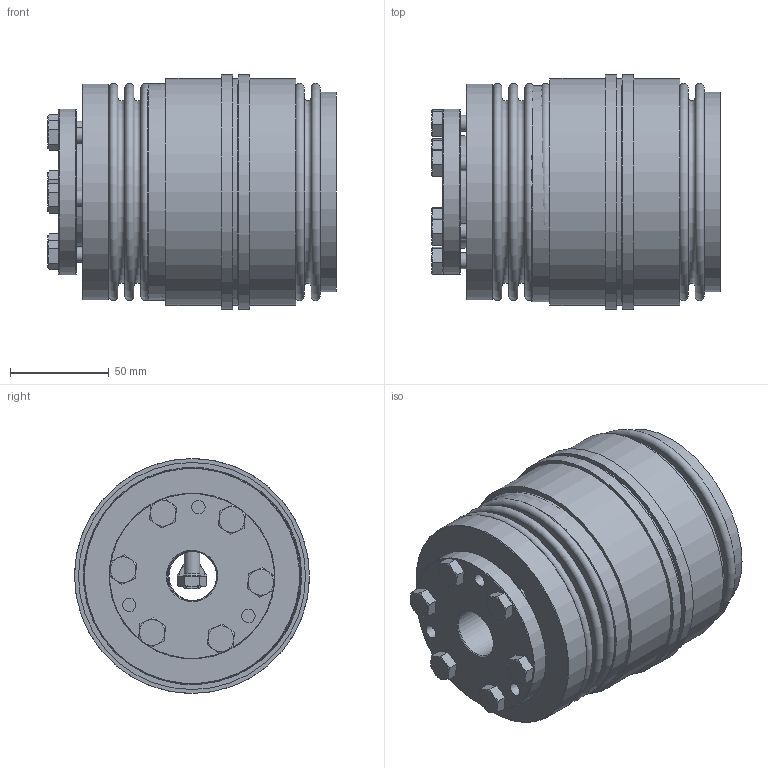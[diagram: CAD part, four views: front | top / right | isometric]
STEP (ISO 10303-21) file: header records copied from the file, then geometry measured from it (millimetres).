
FILE_DESCRIPTION( ( 'Unknown' ), '1' );
FILE_NAME( 'C:/Dokumente und Einstellungen/SKarpstein/Desktop/Korrigierte 3D Modelle/KBK-B-II/KBK-BII-300-135.stp', 'Unknown', ( 'Unknown' ), ( 'Unknown' ), 'XStep 1.0', 'Unknown', ' ' );
FILE_SCHEMA( ( 'automotive_design' ) );
Length unit declared in the file: millimetre
Products named in the file (12): Assem1; Assem2; Hex Screw GradeC_ISO_ISO 4018 - M8 x 30-NN_2; BA300_Standard_2; KB300_Standard_2; Stellring 300_0; Druckring 300_0; Kupplung L-I-300 Grundkörper_0; Konusbuchse 300_0; din_en_24017_m8x30_0; BK300_Standard_0; Flansch BI300
Bounding box: 145.87 x 119 x 119 mm (x, y, z)
Volume: 1625271.4 mm3; surface area: 537023.9 mm2
Topology: 38 solids, 38 shells, 768 faces, 1628 edges, 1032 vertices
Faces by surface type: plane 328, cone 225, cylinder 173, torus 42
Full cylindrical faces by diameter (mm): 3.242 x6, 5.2 x6, 6.647 x18, 6.8 x9, 8 x38, 8.5 x30, 11.63 x7, 25 x7, 52 x4, 55 x4, 57 x3, 76 x6, 83.5 x2, 84 x5, 88 x5, 90 x2, 98 x2, 98.5 x2, 99.8 x4, 101 x4, 109.5 x3, 115 x4, 119 x2
Entity records: 5981 total; most frequent: CARTESIAN_POINT 1274, DIRECTION 980, ORIENTED_EDGE 628, AXIS2_PLACEMENT_3D 466, EDGE_LOOP 434, EDGE_CURVE 314, FACE_OUTER_BOUND 300, VERTEX_POINT 266
